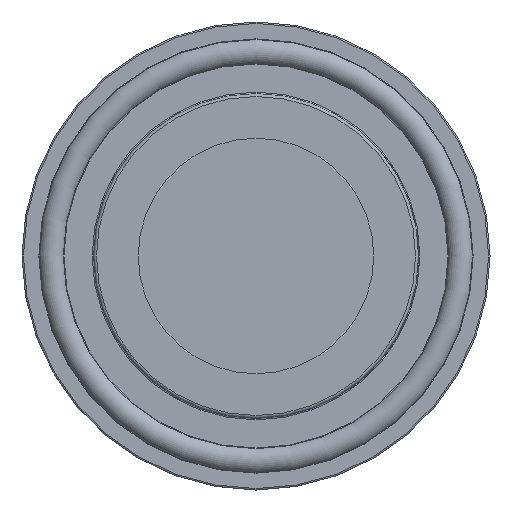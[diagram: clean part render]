
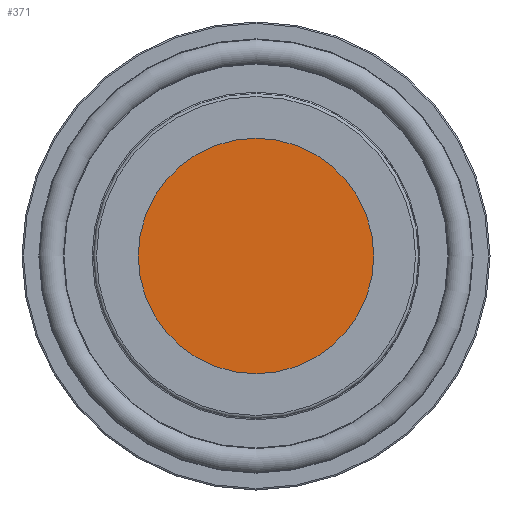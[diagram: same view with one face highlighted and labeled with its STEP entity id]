
A CAD part, left-side view. The second image highlights one B-rep face of the part: STEP entity #371.
In plain terms, the highlighted planar face has unit normal (-1, 0, 0).
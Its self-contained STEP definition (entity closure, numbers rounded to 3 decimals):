
#371 = ADVANCED_FACE( '', ( #917 ), #918, .F. );
#917 = FACE_OUTER_BOUND( '', #1967, .T. );
#918 = PLANE( '', #1968 );
#1967 = EDGE_LOOP( '', ( #4041 ) );
#1968 = AXIS2_PLACEMENT_3D( '', #4042, #4043, #4044 );
#4041 = ORIENTED_EDGE( '', *, *, #5309, .T. );
#4042 = CARTESIAN_POINT( '', ( 0., 0., 0. ) );
#4043 = DIRECTION( '', ( 1., 0., 0. ) );
#4044 = DIRECTION( '', ( 0., 0., -1. ) );
#5309 = EDGE_CURVE( '', #6132, #6132, #6133, .T. );
#6132 = VERTEX_POINT( '', #7455 );
#6133 = CIRCLE( '', #7456, 20.765 );
#7455 = CARTESIAN_POINT( '', ( 0., 0., 20.765 ) );
#7456 = AXIS2_PLACEMENT_3D( '', #9712, #9713, #9714 );
#9712 = CARTESIAN_POINT( '', ( 0., 0., 0. ) );
#9713 = DIRECTION( '', ( -1., 0., 0. ) );
#9714 = DIRECTION( '', ( 0., 0., 1. ) );
